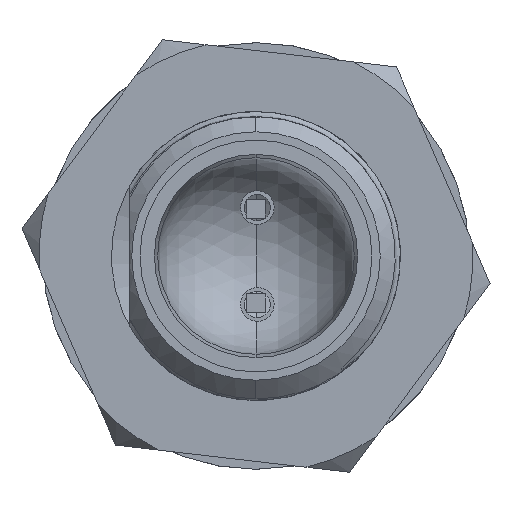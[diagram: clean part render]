
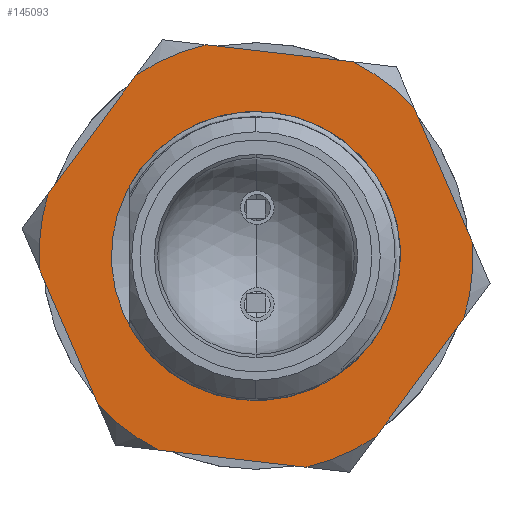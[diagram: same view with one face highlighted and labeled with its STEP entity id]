
A CAD part, left-side view. The second image highlights one B-rep face of the part: STEP entity #145093.
In plain terms, the highlighted planar face has unit normal (-1, 0, 0) as drawn and (0, 0, -1) by its records, which use the part's own axes.
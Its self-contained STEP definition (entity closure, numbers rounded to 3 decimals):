
#1216 = CARTESIAN_POINT ( 'NONE',  ( 0., 6.351, 0. ) ) ;
#2760 = CIRCLE ( 'NONE', #20978, 3.9 ) ;
#3012 = ORIENTED_EDGE ( 'NONE', *, *, #105099, .T. ) ;
#3717 = CARTESIAN_POINT ( 'NONE',  ( 0., 0., 0. ) ) ;
#4438 = CARTESIAN_POINT ( 'NONE',  ( 1.022, -5.761, 0. ) ) ;
#9660 = CARTESIAN_POINT ( 'NONE',  ( -5.5, 3.175, 0. ) ) ;
#12362 = EDGE_CURVE ( 'NONE', #164849, #48752, #35288, .T. ) ;
#12418 = VERTEX_POINT ( 'NONE', #4438 ) ;
#13162 = CARTESIAN_POINT ( 'NONE',  ( 0., 0., 0. ) ) ;
#13322 = ORIENTED_EDGE ( 'NONE', *, *, #12362, .F. ) ;
#14072 = VECTOR ( 'NONE', #65613, 1000. ) ;
#18131 = VERTEX_POINT ( 'NONE', #71160 ) ;
#20978 = AXIS2_PLACEMENT_3D ( 'NONE', #44527, #55544, #135545 ) ;
#21639 = VECTOR ( 'NONE', #108267, 1000. ) ;
#22777 = VERTEX_POINT ( 'NONE', #98186 ) ;
#23620 = LINE ( 'NONE', #138458, #21639 ) ;
#24009 = AXIS2_PLACEMENT_3D ( 'NONE', #33755, #140363, #139802 ) ;
#24270 = AXIS2_PLACEMENT_3D ( 'NONE', #118216, #38827, #142596 ) ;
#24919 = CARTESIAN_POINT ( 'NONE',  ( -4.478, 3.765, 0. ) ) ;
#28574 = LINE ( 'NONE', #1216, #14072 ) ;
#29788 = CIRCLE ( 'NONE', #24270, 5.851 ) ;
#30108 = AXIS2_PLACEMENT_3D ( 'NONE', #42856, #147193, #159969 ) ;
#32043 = DIRECTION ( 'NONE',  ( -0.866, 0.5, 0. ) ) ;
#33755 = CARTESIAN_POINT ( 'NONE',  ( 0., 0., 0. ) ) ;
#34073 = DIRECTION ( 'NONE',  ( -1., 0., 0. ) ) ;
#35063 = ORIENTED_EDGE ( 'NONE', *, *, #101487, .F. ) ;
#35288 = LINE ( 'NONE', #97184, #112123 ) ;
#35544 = FACE_BOUND ( 'NONE', #68515, .T. ) ;
#38537 = CARTESIAN_POINT ( 'NONE',  ( 5.5, -1.996, 0. ) ) ;
#38827 = DIRECTION ( 'NONE',  ( 0., 0., -1. ) ) ;
#40972 = DIRECTION ( 'NONE',  ( 0., 0., 1. ) ) ;
#41531 = ORIENTED_EDGE ( 'NONE', *, *, #95153, .F. ) ;
#41784 = VERTEX_POINT ( 'NONE', #48671 ) ;
#41920 = EDGE_LOOP ( 'NONE', ( #119110, #45225, #171607, #45095, #41531, #118249, #121717, #35063, #64667, #161703, #58578, #13322 ) ) ;
#42856 = CARTESIAN_POINT ( 'NONE',  ( 5.5, 3.175, 0. ) ) ;
#44527 = CARTESIAN_POINT ( 'NONE',  ( 0., 0., 0. ) ) ;
#45095 = ORIENTED_EDGE ( 'NONE', *, *, #53813, .F. ) ;
#45225 = ORIENTED_EDGE ( 'NONE', *, *, #63396, .F. ) ;
#48671 = CARTESIAN_POINT ( 'NONE',  ( 4.478, 3.765, 0. ) ) ;
#48752 = VERTEX_POINT ( 'NONE', #101417 ) ;
#51720 = DIRECTION ( 'NONE',  ( 0., 0., 1. ) ) ;
#53368 = CIRCLE ( 'NONE', #61293, 5.851 ) ;
#53813 = EDGE_CURVE ( 'NONE', #73520, #124460, #28574, .T. ) ;
#54454 = PLANE ( 'NONE',  #30108 ) ;
#54857 = LINE ( 'NONE', #132288, #71533 ) ;
#55544 = DIRECTION ( 'NONE',  ( 0., 0., 1. ) ) ;
#55964 = CIRCLE ( 'NONE', #87996, 5.851 ) ;
#58188 = DIRECTION ( 'NONE',  ( -1., 0., 0. ) ) ;
#58220 = AXIS2_PLACEMENT_3D ( 'NONE', #148231, #68252, #81608 ) ;
#58578 = ORIENTED_EDGE ( 'NONE', *, *, #121528, .F. ) ;
#61293 = AXIS2_PLACEMENT_3D ( 'NONE', #3717, #109769, #58188 ) ;
#63029 = CIRCLE ( 'NONE', #24009, 3.9 ) ;
#63396 = EDGE_CURVE ( 'NONE', #22777, #120759, #113598, .T. ) ;
#64667 = ORIENTED_EDGE ( 'NONE', *, *, #153946, .F. ) ;
#65613 = DIRECTION ( 'NONE',  ( -0.866, -0.5, 0. ) ) ;
#66193 = CARTESIAN_POINT ( 'NONE',  ( 0., 0., 0. ) ) ;
#66938 = CARTESIAN_POINT ( 'NONE',  ( 4.478, -3.765, 0. ) ) ;
#67815 = CARTESIAN_POINT ( 'NONE',  ( -4.478, -3.765, 0. ) ) ;
#68252 = DIRECTION ( 'NONE',  ( 0., 0., 1. ) ) ;
#68515 = EDGE_LOOP ( 'NONE', ( #153871, #3012 ) ) ;
#71160 = CARTESIAN_POINT ( 'NONE',  ( 5.5, 1.996, 0. ) ) ;
#71533 = VECTOR ( 'NONE', #120095, 1000. ) ;
#72413 = VERTEX_POINT ( 'NONE', #66938 ) ;
#72919 = DIRECTION ( 'NONE',  ( 0., 0., 1. ) ) ;
#73520 = VERTEX_POINT ( 'NONE', #95896 ) ;
#73750 = AXIS2_PLACEMENT_3D ( 'NONE', #66193, #51720, #106734 ) ;
#73843 = EDGE_CURVE ( 'NONE', #120759, #164849, #53368, .T. ) ;
#81608 = DIRECTION ( 'NONE',  ( -1., 0., 0. ) ) ;
#87167 = VERTEX_POINT ( 'NONE', #142175 ) ;
#87996 = AXIS2_PLACEMENT_3D ( 'NONE', #13162, #40972, #119244 ) ;
#88069 = EDGE_CURVE ( 'NONE', #18131, #41784, #152696, .T. ) ;
#88527 = DIRECTION ( 'NONE',  ( 0., -1., 0. ) ) ;
#90693 = CARTESIAN_POINT ( 'NONE',  ( 1.022, 5.761, 0. ) ) ;
#95153 = EDGE_CURVE ( 'NONE', #115254, #73520, #169122, .T. ) ;
#95896 = CARTESIAN_POINT ( 'NONE',  ( -1.022, 5.761, 0. ) ) ;
#97184 = CARTESIAN_POINT ( 'NONE',  ( -5.5, -3.175, 0. ) ) ;
#98186 = CARTESIAN_POINT ( 'NONE',  ( -5.5, 1.996, 0. ) ) ;
#101417 = CARTESIAN_POINT ( 'NONE',  ( -1.022, -5.761, 0. ) ) ;
#101487 = EDGE_CURVE ( 'NONE', #114600, #18131, #54857, .T. ) ;
#105099 = EDGE_CURVE ( 'NONE', #87167, #157469, #63029, .T. ) ;
#106734 = DIRECTION ( 'NONE',  ( -1., 0., 0. ) ) ;
#108267 = DIRECTION ( 'NONE',  ( 0.866, 0.5, 0. ) ) ;
#108300 = CARTESIAN_POINT ( 'NONE',  ( -5.5, -1.996, 0. ) ) ;
#109769 = DIRECTION ( 'NONE',  ( 0., 0., 1. ) ) ;
#109919 = EDGE_CURVE ( 'NONE', #12418, #72413, #23620, .T. ) ;
#112123 = VECTOR ( 'NONE', #123266, 1000. ) ;
#112420 = EDGE_CURVE ( 'NONE', #41784, #115254, #133543, .T. ) ;
#113598 = LINE ( 'NONE', #9660, #146830 ) ;
#114366 = FACE_OUTER_BOUND ( 'NONE', #41920, .T. ) ;
#114600 = VERTEX_POINT ( 'NONE', #38537 ) ;
#115254 = VERTEX_POINT ( 'NONE', #90693 ) ;
#117538 = EDGE_CURVE ( 'NONE', #22777, #124460, #29788, .T. ) ;
#118216 = CARTESIAN_POINT ( 'NONE',  ( 0., 0., 0. ) ) ;
#118249 = ORIENTED_EDGE ( 'NONE', *, *, #112420, .F. ) ;
#119110 = ORIENTED_EDGE ( 'NONE', *, *, #73843, .F. ) ;
#119244 = DIRECTION ( 'NONE',  ( -1., 0., 0. ) ) ;
#120095 = DIRECTION ( 'NONE',  ( 0., 1., 0. ) ) ;
#120732 = EDGE_CURVE ( 'NONE', #157469, #87167, #2760, .T. ) ;
#120759 = VERTEX_POINT ( 'NONE', #108300 ) ;
#121528 = EDGE_CURVE ( 'NONE', #48752, #12418, #141648, .T. ) ;
#121717 = ORIENTED_EDGE ( 'NONE', *, *, #88069, .F. ) ;
#123266 = DIRECTION ( 'NONE',  ( 0.866, -0.5, 0. ) ) ;
#124460 = VERTEX_POINT ( 'NONE', #24919 ) ;
#132288 = CARTESIAN_POINT ( 'NONE',  ( 5.5, -3.175, 0. ) ) ;
#133543 = LINE ( 'NONE', #136375, #137729 ) ;
#134169 = AXIS2_PLACEMENT_3D ( 'NONE', #151750, #72919, #34073 ) ;
#135545 = DIRECTION ( 'NONE',  ( -1., 0., 0. ) ) ;
#136375 = CARTESIAN_POINT ( 'NONE',  ( 5.5, 3.175, 0. ) ) ;
#137729 = VECTOR ( 'NONE', #32043, 1000. ) ;
#138458 = CARTESIAN_POINT ( 'NONE',  ( 0., -6.351, 0. ) ) ;
#139802 = DIRECTION ( 'NONE',  ( -1., 0., 0. ) ) ;
#140363 = DIRECTION ( 'NONE',  ( 0., 0., 1. ) ) ;
#141648 = CIRCLE ( 'NONE', #134169, 5.851 ) ;
#142175 = CARTESIAN_POINT ( 'NONE',  ( 3.9, 0., 0. ) ) ;
#142596 = DIRECTION ( 'NONE',  ( -1., 0., 0. ) ) ;
#145093 = ADVANCED_FACE ( 'NONE', ( #35544, #114366 ), #54454, .T. ) ;
#146830 = VECTOR ( 'NONE', #88527, 1000. ) ;
#147193 = DIRECTION ( 'NONE',  ( 0., 0., -1. ) ) ;
#148231 = CARTESIAN_POINT ( 'NONE',  ( 0., 0., 0. ) ) ;
#151750 = CARTESIAN_POINT ( 'NONE',  ( 0., 0., 0. ) ) ;
#152696 = CIRCLE ( 'NONE', #73750, 5.851 ) ;
#153871 = ORIENTED_EDGE ( 'NONE', *, *, #120732, .T. ) ;
#153946 = EDGE_CURVE ( 'NONE', #72413, #114600, #55964, .T. ) ;
#157469 = VERTEX_POINT ( 'NONE', #164042 ) ;
#159969 = DIRECTION ( 'NONE',  ( -1., 0., 0. ) ) ;
#161703 = ORIENTED_EDGE ( 'NONE', *, *, #109919, .F. ) ;
#164042 = CARTESIAN_POINT ( 'NONE',  ( -3.9, 0., 0. ) ) ;
#164849 = VERTEX_POINT ( 'NONE', #67815 ) ;
#169122 = CIRCLE ( 'NONE', #58220, 5.851 ) ;
#171607 = ORIENTED_EDGE ( 'NONE', *, *, #117538, .T. ) ;
